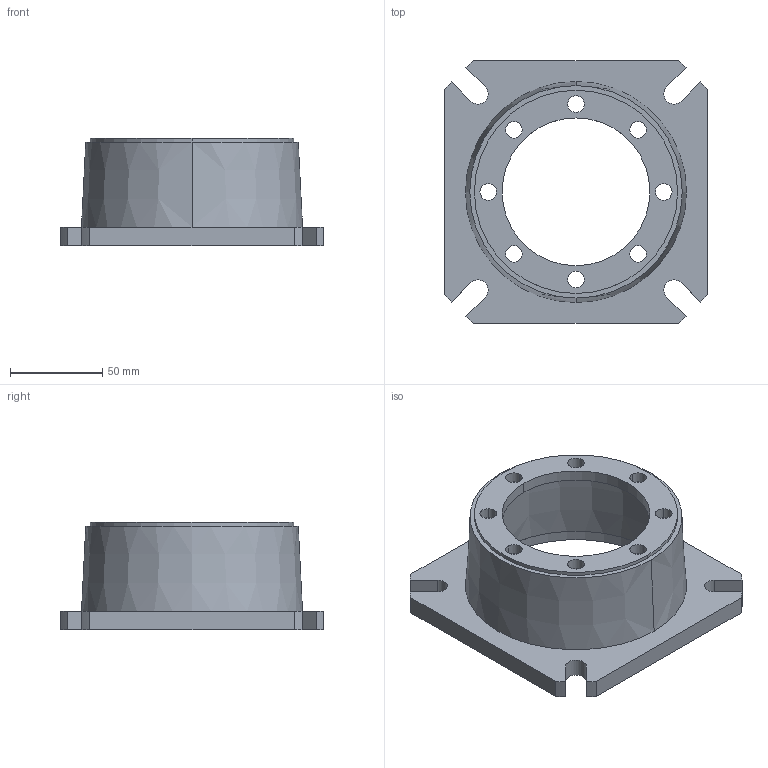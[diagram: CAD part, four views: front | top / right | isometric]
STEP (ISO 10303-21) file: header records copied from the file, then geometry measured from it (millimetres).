
FILE_DESCRIPTION((''),'2;1');
FILE_NAME('FLAOUTFLB63','2013-08-28T',('atrevisan'),(''),'PRO/ENGINEER BY PARAMETRIC TECHNOLOGY CORPORATION, 2011490','PRO/ENGINEER BY PARAMETRIC TECHNOLOGY CORPORATION, 2011490','');
FILE_SCHEMA(('CONFIG_CONTROL_DESIGN'));
Length unit declared in the file: millimetre
Products named in the file (1): FLAOUTFLB63
Bounding box: 142 x 142 x 58 mm (x, y, z)
Volume: 158506.5 mm3; surface area: 70612 mm2
Topology: 1 solids, 1 shells, 56 faces, 150 edges, 100 vertices
Faces by surface type: cylinder 34, plane 18, cone 4
Entity records: 1864 total; most frequent: DIRECTION 338, CARTESIAN_POINT 306, ORIENTED_EDGE 300, EDGE_CURVE 150, AXIS2_PLACEMENT_3D 132, VERTEX_POINT 100, EDGE_LOOP 78, CIRCLE 76
